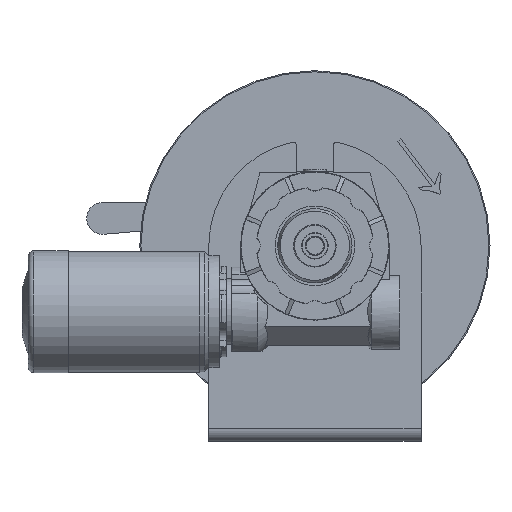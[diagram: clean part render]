
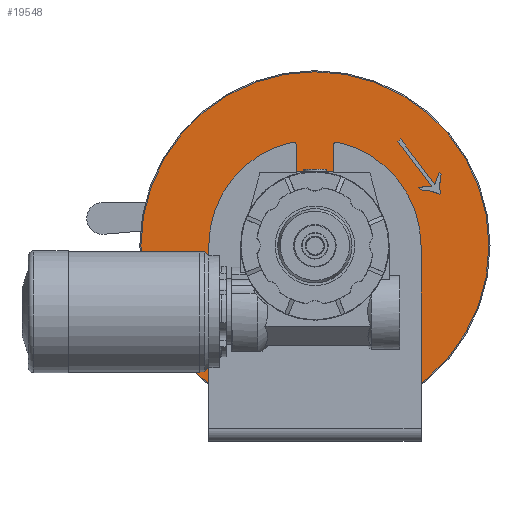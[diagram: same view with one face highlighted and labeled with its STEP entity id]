
A CAD part, left-side view. The second image highlights one B-rep face of the part: STEP entity #19548.
In plain terms, the highlighted planar face has unit normal (-1, 0, 0).
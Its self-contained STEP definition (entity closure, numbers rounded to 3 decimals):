
#321=B_SPLINE_CURVE_WITH_KNOTS('',2,(#35212,#35213,#35214,#35215),
 .UNSPECIFIED.,.F.,.F.,(3,1,3),(0.,1.,2.),.UNSPECIFIED.);
#323=B_SPLINE_CURVE_WITH_KNOTS('',2,(#35240,#35241,#35242,#35243),
 .UNSPECIFIED.,.F.,.F.,(3,1,3),(0.,1.,2.),.UNSPECIFIED.);
#325=B_SPLINE_CURVE_WITH_KNOTS('',2,(#35263,#35264,#35265),
 .UNSPECIFIED.,.F.,.F.,(3,3),(0.,1.),.UNSPECIFIED.);
#327=B_SPLINE_CURVE_WITH_KNOTS('',2,(#35288,#35289,#35290,#35291),
 .UNSPECIFIED.,.F.,.F.,(3,1,3),(0.,1.,2.),.UNSPECIFIED.);
#485=FACE_BOUND('',#3227,.T.);
#486=FACE_BOUND('',#3228,.T.);
#1005=PLANE('',#21942);
#2062=FACE_OUTER_BOUND('',#3226,.T.);
#3226=EDGE_LOOP('',(#17676));
#3227=EDGE_LOOP('',(#17677,#17678,#17679,#17680,#17681,#17682,#17683,#17684,
#17685,#17686));
#3228=EDGE_LOOP('',(#17687));
#4567=CIRCLE('',#21849,12.5);
#4580=CIRCLE('',#21871,164.);
#5950=LINE('',#35222,#7274);
#5954=LINE('',#35249,#7278);
#5957=LINE('',#35270,#7281);
#5961=LINE('',#35297,#7285);
#5964=LINE('',#35303,#7288);
#5967=LINE('',#35307,#7291);
#7274=VECTOR('',#27920,10.);
#7278=VECTOR('',#27926,10.);
#7281=VECTOR('',#27931,10.);
#7285=VECTOR('',#27937,10.);
#7288=VECTOR('',#27942,10.);
#7291=VECTOR('',#27947,10.);
#9108=VERTEX_POINT('',#34735);
#9120=VERTEX_POINT('',#34775);
#9160=VERTEX_POINT('',#35209);
#9161=VERTEX_POINT('',#35211);
#9163=VERTEX_POINT('',#35220);
#9165=VERTEX_POINT('',#35238);
#9167=VERTEX_POINT('',#35247);
#9169=VERTEX_POINT('',#35261);
#9171=VERTEX_POINT('',#35269);
#9173=VERTEX_POINT('',#35287);
#9175=VERTEX_POINT('',#35296);
#9177=VERTEX_POINT('',#35302);
#11945=EDGE_CURVE('',#9108,#9108,#4567,.T.);
#11964=EDGE_CURVE('',#9120,#9120,#4580,.T.);
#12027=EDGE_CURVE('',#9161,#9160,#321,.T.);
#12031=EDGE_CURVE('',#9160,#9163,#5950,.T.);
#12034=EDGE_CURVE('',#9163,#9165,#323,.T.);
#12037=EDGE_CURVE('',#9165,#9167,#5954,.T.);
#12040=EDGE_CURVE('',#9167,#9169,#325,.T.);
#12042=EDGE_CURVE('',#9171,#9161,#5957,.T.);
#12045=EDGE_CURVE('',#9173,#9171,#327,.T.);
#12048=EDGE_CURVE('',#9175,#9173,#5961,.T.);
#12051=EDGE_CURVE('',#9177,#9175,#5964,.T.);
#12054=EDGE_CURVE('',#9169,#9177,#5967,.T.);
#17676=ORIENTED_EDGE('',*,*,#11964,.F.);
#17677=ORIENTED_EDGE('',*,*,#12054,.T.);
#17678=ORIENTED_EDGE('',*,*,#12051,.T.);
#17679=ORIENTED_EDGE('',*,*,#12048,.T.);
#17680=ORIENTED_EDGE('',*,*,#12045,.T.);
#17681=ORIENTED_EDGE('',*,*,#12042,.T.);
#17682=ORIENTED_EDGE('',*,*,#12027,.T.);
#17683=ORIENTED_EDGE('',*,*,#12031,.T.);
#17684=ORIENTED_EDGE('',*,*,#12034,.T.);
#17685=ORIENTED_EDGE('',*,*,#12037,.T.);
#17686=ORIENTED_EDGE('',*,*,#12040,.T.);
#17687=ORIENTED_EDGE('',*,*,#11945,.F.);
#19548=ADVANCED_FACE('',(#2062,#485,#486),#1005,.T.);
#21849=AXIS2_PLACEMENT_3D('',#34736,#27728,#27729);
#21871=AXIS2_PLACEMENT_3D('',#34776,#27778,#27779);
#21942=AXIS2_PLACEMENT_3D('',#35309,#27950,#27951);
#27728=DIRECTION('center_axis',(-1.,0.,0.));
#27729=DIRECTION('ref_axis',(0.,1.,0.));
#27778=DIRECTION('center_axis',(1.,0.,0.));
#27779=DIRECTION('ref_axis',(0.,0.,
-1.));
#27920=DIRECTION('',(0.,0.798,-0.602));
#27926=DIRECTION('',(0.,0.602,0.798));
#27931=DIRECTION('',(0.,-0.602,-0.798));
#27937=DIRECTION('',(0.,-0.602,-0.798));
#27942=DIRECTION('',(0.,-0.798,0.602));
#27947=DIRECTION('',(0.,0.602,0.798));
#27950=DIRECTION('center_axis',(-1.,0.,0.));
#27951=DIRECTION('ref_axis',(0.,-1.,0.));
#34735=CARTESIAN_POINT('',(-143.036,-12.5,184.214));
#34736=CARTESIAN_POINT('Origin',(-143.036,0.,
184.214));
#34775=CARTESIAN_POINT('',(-143.036,164.,184.214));
#34776=CARTESIAN_POINT('Origin',(-143.036,0.,
184.214));
#35209=CARTESIAN_POINT('',(-143.036,-118.311,233.775));
#35211=CARTESIAN_POINT('',(-143.036,-118.89,251.572));
#35212=CARTESIAN_POINT('Ctrl Pts',(-143.036,-118.89,251.572));
#35213=CARTESIAN_POINT('Ctrl Pts',(-143.036,-117.694,245.086));
#35214=CARTESIAN_POINT('Ctrl Pts',(-143.036,-117.556,236.86));
#35215=CARTESIAN_POINT('Ctrl Pts',(-143.036,-118.311,233.775));
#35220=CARTESIAN_POINT('',(-143.036,-117.114,232.872));
#35222=CARTESIAN_POINT('',(-143.036,-95.393,216.48));
#35238=CARTESIAN_POINT('',(-143.036,-99.59,237.058));
#35240=CARTESIAN_POINT('Ctrl Pts',(-143.036,-117.114,232.872));
#35241=CARTESIAN_POINT('Ctrl Pts',(-143.036,-113.819,234.547));
#35242=CARTESIAN_POINT('Ctrl Pts',(-143.036,-106.05,236.502));
#35243=CARTESIAN_POINT('Ctrl Pts',(-143.036,-99.59,237.058));
#35247=CARTESIAN_POINT('',(-143.036,-98.028,239.128));
#35249=CARTESIAN_POINT('',(-143.036,-66.159,281.359));
#35261=CARTESIAN_POINT('',(-143.036,-110.286,240.104));
#35263=CARTESIAN_POINT('Ctrl Pts',(-143.036,-98.028,239.128));
#35264=CARTESIAN_POINT('Ctrl Pts',(-143.036,-105.333,240.681));
#35265=CARTESIAN_POINT('Ctrl Pts',(-143.036,-110.286,240.104));
#35269=CARTESIAN_POINT('',(-143.036,-117.353,253.61));
#35270=CARTESIAN_POINT('',(-143.036,-86.228,294.855));
#35287=CARTESIAN_POINT('',(-143.036,-113.003,242.154));
#35288=CARTESIAN_POINT('Ctrl Pts',(-143.036,-113.003,
242.154));
#35289=CARTESIAN_POINT('Ctrl Pts',(-143.036,-114.052,
246.145));
#35290=CARTESIAN_POINT('Ctrl Pts',(-143.036,-115.355,
249.665));
#35291=CARTESIAN_POINT('Ctrl Pts',(-143.036,-117.353,
253.61));
#35296=CARTESIAN_POINT('',(-143.036,-80.737,284.912));
#35297=CARTESIAN_POINT('',(-143.036,-79.144,287.022));
#35302=CARTESIAN_POINT('',(-143.036,-78.02,282.862));
#35303=CARTESIAN_POINT('',(-143.036,-58.093,267.824));
#35307=CARTESIAN_POINT('',(-143.036,-60.295,306.35));
#35309=CARTESIAN_POINT('Origin',(-143.036,0.,297.714));
